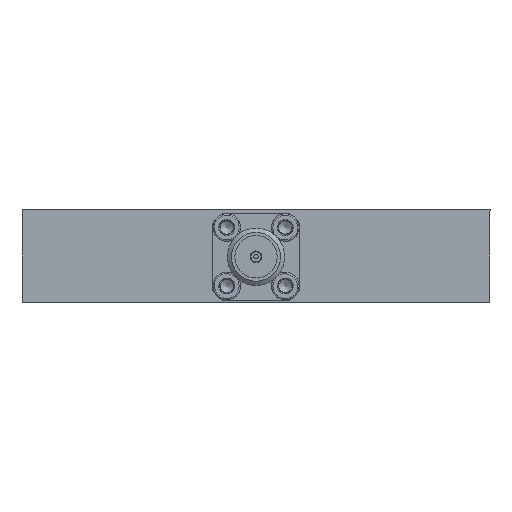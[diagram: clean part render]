
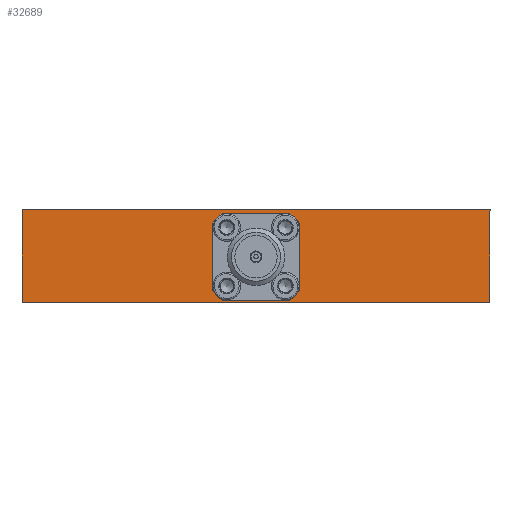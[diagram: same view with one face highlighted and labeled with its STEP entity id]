
A CAD part, left-side view. The second image highlights one B-rep face of the part: STEP entity #32689.
In plain terms, the highlighted planar face has unit normal (-1, 0, 0).
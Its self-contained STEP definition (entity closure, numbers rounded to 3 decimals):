
#398=LINE('',#42207,#2586);
#2313=LINE('',#46429,#4501);
#2317=LINE('',#46441,#4505);
#2321=LINE('',#46453,#4509);
#2325=LINE('',#46465,#4513);
#2439=LINE('',#47168,#4627);
#2443=LINE('',#47177,#4631);
#2444=LINE('',#47178,#4632);
#2586=VECTOR('',#35907,1000.);
#4501=VECTOR('',#39532,1000.);
#4505=VECTOR('',#39544,1000.);
#4509=VECTOR('',#39556,1000.);
#4513=VECTOR('',#39568,1000.);
#4627=VECTOR('',#40172,1000.);
#4631=VECTOR('',#40178,1000.);
#4632=VECTOR('',#40179,1000.);
#5695=PLANE('',#34516);
#11213=ORIENTED_EDGE('',*,*,#14214,.F.);
#11214=ORIENTED_EDGE('',*,*,#14211,.F.);
#11215=ORIENTED_EDGE('',*,*,#14208,.F.);
#11216=ORIENTED_EDGE('',*,*,#14205,.F.);
#11217=ORIENTED_EDGE('',*,*,#14201,.F.);
#11218=ORIENTED_EDGE('',*,*,#14223,.F.);
#11219=ORIENTED_EDGE('',*,*,#14220,.F.);
#11220=ORIENTED_EDGE('',*,*,#14217,.F.);
#11221=ORIENTED_EDGE('',*,*,#12180,.F.);
#11222=ORIENTED_EDGE('',*,*,#14477,.T.);
#11223=ORIENTED_EDGE('',*,*,#14473,.T.);
#11224=ORIENTED_EDGE('',*,*,#14478,.F.);
#12180=EDGE_CURVE('',#15040,#15037,#398,.T.);
#14201=EDGE_CURVE('',#16417,#16418,#17169,.T.);
#14205=EDGE_CURVE('',#16418,#16421,#2313,.T.);
#14208=EDGE_CURVE('',#16421,#16423,#17171,.T.);
#14211=EDGE_CURVE('',#16423,#16425,#2317,.T.);
#14214=EDGE_CURVE('',#16425,#16427,#17173,.T.);
#14217=EDGE_CURVE('',#16427,#16429,#2321,.T.);
#14220=EDGE_CURVE('',#16429,#16431,#17175,.T.);
#14223=EDGE_CURVE('',#16431,#16417,#2325,.T.);
#14473=EDGE_CURVE('',#16633,#16634,#2439,.T.);
#14477=EDGE_CURVE('',#15040,#16633,#2443,.T.);
#14478=EDGE_CURVE('',#15037,#16634,#2444,.T.);
#15037=VERTEX_POINT('',#42193);
#15040=VERTEX_POINT('',#42206);
#16417=VERTEX_POINT('',#46421);
#16418=VERTEX_POINT('',#46422);
#16421=VERTEX_POINT('',#46430);
#16423=VERTEX_POINT('',#46436);
#16425=VERTEX_POINT('',#46442);
#16427=VERTEX_POINT('',#46448);
#16429=VERTEX_POINT('',#46454);
#16431=VERTEX_POINT('',#46460);
#16633=VERTEX_POINT('',#47169);
#16634=VERTEX_POINT('',#47170);
#17169=CIRCLE('',#34256,6.);
#17171=CIRCLE('',#34260,6.);
#17173=CIRCLE('',#34264,6.);
#17175=CIRCLE('',#34268,6.);
#18978=EDGE_LOOP('',(#11213,#11214,#11215,#11216,#11217,#11218,#11219,#11220));
#18979=EDGE_LOOP('',(#11221,#11222,#11223,#11224));
#21006=FACE_BOUND('',#18978,.T.);
#21007=FACE_BOUND('',#18979,.T.);
#32689=ADVANCED_FACE('',(#21006,#21007),#5695,.F.);
#34256=AXIS2_PLACEMENT_3D('',#46420,#39524,#39525);
#34260=AXIS2_PLACEMENT_3D('',#46435,#39537,#39538);
#34264=AXIS2_PLACEMENT_3D('',#46447,#39549,#39550);
#34268=AXIS2_PLACEMENT_3D('',#46459,#39561,#39562);
#34516=AXIS2_PLACEMENT_3D('',#47176,#40176,#40177);
#35907=DIRECTION('',(0.,-1.,0.));
#39524=DIRECTION('',(-1.,0.,0.));
#39525=DIRECTION('',(0.,1.,0.));
#39532=DIRECTION('',(0.,1.,0.));
#39537=DIRECTION('',(-1.,0.,0.));
#39538=DIRECTION('',(0.,1.,0.));
#39544=DIRECTION('',(0.,0.,-1.));
#39549=DIRECTION('',(-1.,0.,0.));
#39550=DIRECTION('',(0.,1.,0.));
#39556=DIRECTION('',(0.,-1.,0.));
#39561=DIRECTION('',(-1.,0.,0.));
#39562=DIRECTION('',(0.,1.,0.));
#39568=DIRECTION('',(0.,0.,1.));
#40172=DIRECTION('',(0.,-1.,0.));
#40176=DIRECTION('',(1.,0.,0.));
#40177=DIRECTION('',(0.,0.,-1.));
#40178=DIRECTION('',(0.,0.,-1.));
#40179=DIRECTION('',(0.,0.,-1.));
#42193=CARTESIAN_POINT('',(-25.4,-25.4,10.));
#42206=CARTESIAN_POINT('',(-25.4,25.4,10.));
#42207=CARTESIAN_POINT('',(-25.4,25.4,10.));
#46420=CARTESIAN_POINT('',(-25.4,0.,4.915));
#46421=CARTESIAN_POINT('',(-25.4,-4.75,8.581));
#46422=CARTESIAN_POINT('',(-25.4,-3.666,9.665));
#46429=CARTESIAN_POINT('',(-25.4,-3.666,9.665));
#46430=CARTESIAN_POINT('',(-25.4,3.666,9.665));
#46435=CARTESIAN_POINT('',(-25.4,0.,4.915));
#46436=CARTESIAN_POINT('',(-25.4,4.75,8.581));
#46441=CARTESIAN_POINT('',(-25.4,4.75,8.581));
#46442=CARTESIAN_POINT('',(-25.4,4.75,1.249));
#46447=CARTESIAN_POINT('',(-25.4,0.,4.915));
#46448=CARTESIAN_POINT('',(-25.4,3.666,0.165));
#46453=CARTESIAN_POINT('',(-25.4,3.666,0.165));
#46454=CARTESIAN_POINT('',(-25.4,-3.666,0.165));
#46459=CARTESIAN_POINT('',(-25.4,0.,4.915));
#46460=CARTESIAN_POINT('',(-25.4,-4.75,1.249));
#46465=CARTESIAN_POINT('',(-25.4,-4.75,1.249));
#47168=CARTESIAN_POINT('',(-25.4,25.4,0.));
#47169=CARTESIAN_POINT('',(-25.4,25.4,0.));
#47170=CARTESIAN_POINT('',(-25.4,-25.4,0.));
#47176=CARTESIAN_POINT('',(-25.4,25.4,6.));
#47177=CARTESIAN_POINT('',(-25.4,25.4,6.));
#47178=CARTESIAN_POINT('',(-25.4,-25.4,6.));
